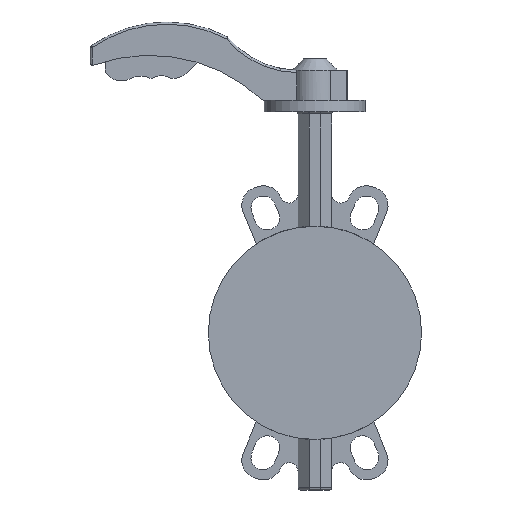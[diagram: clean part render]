
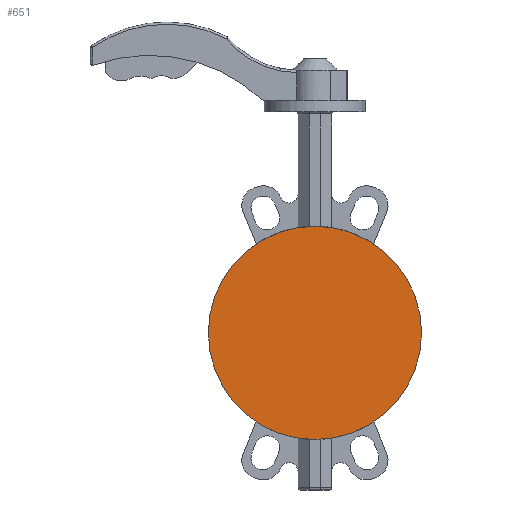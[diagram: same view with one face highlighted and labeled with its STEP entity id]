
A CAD part, left-side view. The second image highlights one B-rep face of the part: STEP entity #651.
In plain terms, the highlighted planar face has unit normal (-1, 0, 0).
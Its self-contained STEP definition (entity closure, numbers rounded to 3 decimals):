
#351=PLANE('',#4089);
#450=FACE_OUTER_BOUND('',#961,.T.);
#651=ADVANCED_FACE('',(#450),#351,.F.);
#961=EDGE_LOOP('',(#1407));
#1214=CIRCLE('',#4067,95.);
#1407=ORIENTED_EDGE('',*,*,#2814,.F.);
#2447=VERTEX_POINT('',#5342);
#2814=EDGE_CURVE('',#2447,#2447,#1214,.T.);
#4067=AXIS2_PLACEMENT_3D('',#5341,#4377,#4378);
#4089=AXIS2_PLACEMENT_3D('',#5474,#4477,#4478);
#4377=DIRECTION('',(1.,0.,0.));
#4378=DIRECTION('',(0.,1.,0.));
#4477=DIRECTION('',(1.,0.,0.));
#4478=DIRECTION('',(0.,0.,-1.));
#5341=CARTESIAN_POINT('',(-28.,0.,0.));
#5342=CARTESIAN_POINT('',(-28.,95.,0.));
#5474=CARTESIAN_POINT('',(-28.,0.,0.));
